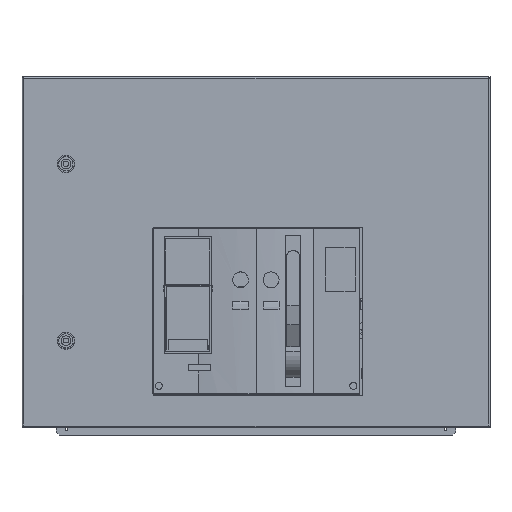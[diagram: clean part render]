
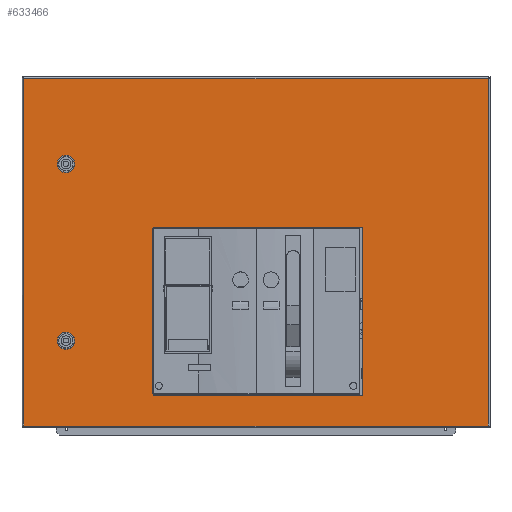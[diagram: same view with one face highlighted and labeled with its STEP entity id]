
A CAD part, top view. The second image highlights one B-rep face of the part: STEP entity #633466.
In plain terms, the highlighted planar face has unit normal (0, 0, 1).
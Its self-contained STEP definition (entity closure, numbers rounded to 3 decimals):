
#626861=CARTESIAN_POINT(' ',(394.1,544.7,26.9));
#626862=VERTEX_POINT(' ',#626861);
#627596=CARTESIAN_POINT(' ',(394.1,-44.7,26.9));
#627597=VERTEX_POINT(' ',#627596);
#628561=CARTESIAN_POINT(' ',(181.4,7.5,26.9));
#628566=DIRECTION(' ',(0.,1.,0.));
#628571=VECTOR(' ',#628566,1.);
#628576=LINE('',#628561,#628571);
#628581=CARTESIAN_POINT(' ',(181.4,7.5,26.9));
#628582=VERTEX_POINT(' ',#628581);
#628586=CARTESIAN_POINT(' ',(181.4,292.5,26.9));
#628587=VERTEX_POINT(' ',#628586);
#628591=EDGE_CURVE(' ',#628582,#628587,#628576,.T.);
#628706=CARTESIAN_POINT(' ',(181.4,292.5,26.9));
#628711=DIRECTION(' ',(-1.,0.,0.));
#628716=VECTOR(' ',#628711,1.);
#628721=LINE('',#628706,#628716);
#628726=CARTESIAN_POINT(' ',(-174.6,292.5,26.9));
#628727=VERTEX_POINT(' ',#628726);
#628731=EDGE_CURVE(' ',#628587,#628727,#628721,.T.);
#628821=CARTESIAN_POINT(' ',(-174.6,292.5,26.9));
#628826=DIRECTION(' ',(0.,-1.,0.));
#628831=VECTOR(' ',#628826,1.);
#628836=LINE('',#628821,#628831);
#628841=CARTESIAN_POINT(' ',(-174.6,7.5,26.9));
#628842=VERTEX_POINT(' ',#628841);
#628846=EDGE_CURVE(' ',#628727,#628842,#628836,.T.);
#628936=CARTESIAN_POINT(' ',(-174.6,7.5,26.9));
#628941=DIRECTION(' ',(1.,0.,0.));
#628946=VECTOR(' ',#628941,1.);
#628951=LINE('',#628936,#628946);
#628956=EDGE_CURVE(' ',#628842,#628582,#628951,.T.);
#629021=CARTESIAN_POINT(' ',(394.1,544.7,26.9));
#629026=DIRECTION(' ',(0.,-1.,0.));
#629031=VECTOR(' ',#629026,1.);
#629036=LINE('',#629021,#629031);
#629041=EDGE_CURVE(' ',#626862,#627597,#629036,.T.);
#631321=CARTESIAN_POINT(' ',(-394.3,-44.7,26.9));
#631322=VERTEX_POINT(' ',#631321);
#631936=CARTESIAN_POINT(' ',(-394.3,544.7,26.9));
#631937=VERTEX_POINT(' ',#631936);
#633306=DIRECTION(' ',(-0.,-0.,1.));
#633311=CARTESIAN_POINT(' ',(394.1,-44.7,26.9));
#633316=DIRECTION(' ',(0.,1.,0.));
#633321=AXIS2_PLACEMENT_3D(' ',#633311,#633306,#633316);
#633326=PLANE('NONE',#633321);
#633331=CARTESIAN_POINT(' ',(-394.3,-44.7,26.9));
#633336=DIRECTION(' ',(1.,0.,0.));
#633341=VECTOR(' ',#633336,1.);
#633346=LINE('',#633331,#633341);
#633351=EDGE_CURVE(' ',#631322,#627597,#633346,.T.);
#633356=ORIENTED_EDGE(' ',*,*,#633351,.T.);
#633361=ORIENTED_EDGE(' ',*,*,#629041,.F.);
#633366=CARTESIAN_POINT(' ',(394.1,544.7,26.9));
#633371=DIRECTION(' ',(-1.,0.,0.));
#633376=VECTOR(' ',#633371,1.);
#633381=LINE('',#633366,#633376);
#633386=EDGE_CURVE(' ',#626862,#631937,#633381,.T.);
#633391=ORIENTED_EDGE(' ',*,*,#633386,.T.);
#633396=CARTESIAN_POINT(' ',(-394.3,544.7,26.9));
#633401=DIRECTION(' ',(0.,-1.,0.));
#633406=VECTOR(' ',#633401,1.);
#633411=LINE('',#633396,#633406);
#633416=EDGE_CURVE(' ',#631937,#631322,#633411,.T.);
#633421=ORIENTED_EDGE(' ',*,*,#633416,.T.);
#633426=EDGE_LOOP(' ',(#633356,#633361,#633391,#633421));
#633431=FACE_OUTER_BOUND(' ',#633426,.T.);
#633436=ORIENTED_EDGE(' ',*,*,#628731,.F.);
#633441=ORIENTED_EDGE(' ',*,*,#628591,.F.);
#633446=ORIENTED_EDGE(' ',*,*,#628956,.F.);
#633451=ORIENTED_EDGE(' ',*,*,#628846,.F.);
#633456=EDGE_LOOP(' ',(#633436,#633441,#633446,#633451));
#633461=FACE_BOUND(' ',#633456,.T.);
#633466=ADVANCED_FACE('NONE',(#633431,#633461),#633326,.T.);
